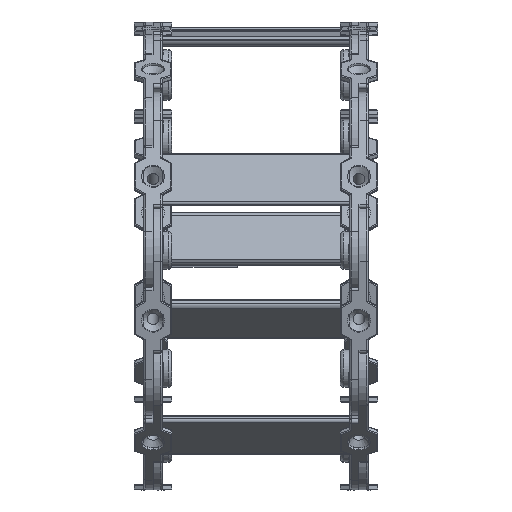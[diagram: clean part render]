
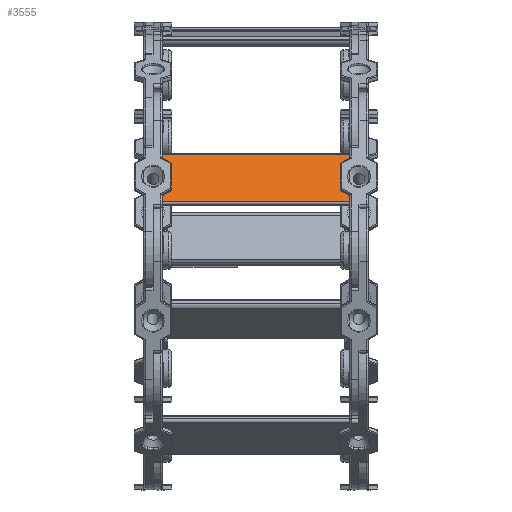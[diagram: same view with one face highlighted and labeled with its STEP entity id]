
A CAD part, front view. The second image highlights one B-rep face of the part: STEP entity #3555.
In plain terms, the highlighted planar face has unit normal (0, -0.915, 0.403) as drawn and (1, 0, 0) by its records, which use the part's own axes.
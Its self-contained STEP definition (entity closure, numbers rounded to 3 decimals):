
#3516=CARTESIAN_POINT('',(48.742,50.631,0.0));
#3517=DIRECTION('',(1.0,0.0,0.0));
#3518=DIRECTION('',(0.0,0.0,-1.0));
#3519=AXIS2_PLACEMENT_3D('',#3516,#3517,#3518);
#3520=PLANE('',#3519);
#3521=CARTESIAN_POINT('',(48.742,50.631,100.0));
#3522=VERTEX_POINT('',#3521);
#3523=CARTESIAN_POINT('',(48.742,23.635,100.0));
#3524=VERTEX_POINT('',#3523);
#3525=CARTESIAN_POINT('',(48.742,50.631,100.0));
#3526=DIRECTION('',(0.0,-1.0,0.0));
#3527=VECTOR('',#3526,26.996);
#3528=LINE('',#3525,#3527);
#3529=EDGE_CURVE('',#3522,#3524,#3528,.T.);
#3530=ORIENTED_EDGE('',*,*,#3529,.T.);
#3531=CARTESIAN_POINT('',(48.742,23.635,0.0));
#3532=VERTEX_POINT('',#3531);
#3533=CARTESIAN_POINT('',(48.742,23.635,0.0));
#3534=DIRECTION('',(0.0,0.0,1.0));
#3535=VECTOR('',#3534,100.0);
#3536=LINE('',#3533,#3535);
#3537=EDGE_CURVE('',#3532,#3524,#3536,.T.);
#3538=ORIENTED_EDGE('',*,*,#3537,.F.);
#3539=CARTESIAN_POINT('',(48.742,50.631,0.0));
#3540=VERTEX_POINT('',#3539);
#3541=CARTESIAN_POINT('',(48.742,23.635,0.0));
#3542=DIRECTION('',(0.0,1.0,0.0));
#3543=VECTOR('',#3542,26.996);
#3544=LINE('',#3541,#3543);
#3545=EDGE_CURVE('',#3532,#3540,#3544,.T.);
#3546=ORIENTED_EDGE('',*,*,#3545,.T.);
#3547=CARTESIAN_POINT('',(48.742,50.631,0.0));
#3548=DIRECTION('',(0.0,0.0,1.0));
#3549=VECTOR('',#3548,100.0);
#3550=LINE('',#3547,#3549);
#3551=EDGE_CURVE('',#3540,#3522,#3550,.T.);
#3552=ORIENTED_EDGE('',*,*,#3551,.T.);
#3553=EDGE_LOOP('',(#3530,#3538,#3546,#3552));
#3554=FACE_OUTER_BOUND('',#3553,.T.);
#3555=ADVANCED_FACE('',(#3554),#3520,.T.);
